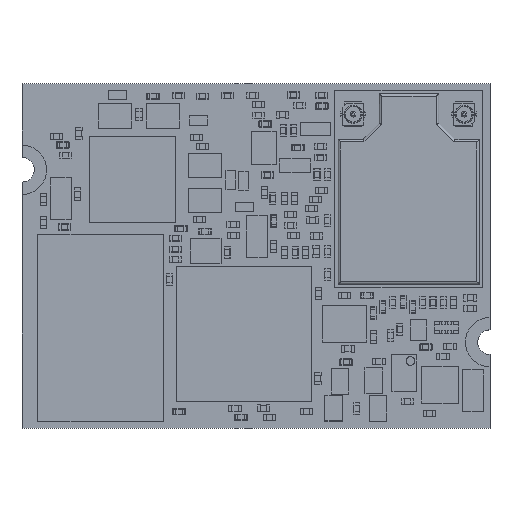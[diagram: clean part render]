
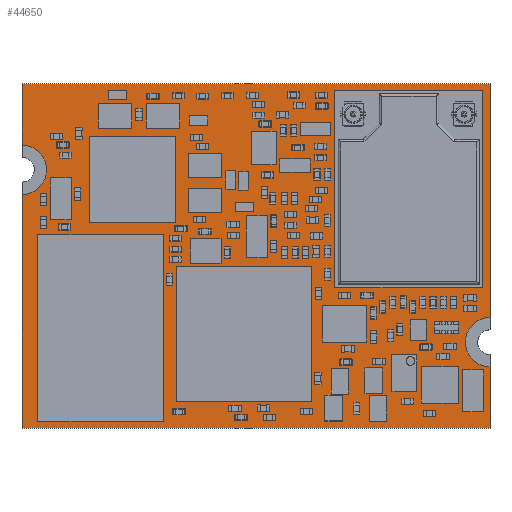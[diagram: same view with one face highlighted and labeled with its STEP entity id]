
A CAD part, top view. The second image highlights one B-rep face of the part: STEP entity #44650.
In plain terms, the highlighted planar face has unit normal (0, 0, 1).
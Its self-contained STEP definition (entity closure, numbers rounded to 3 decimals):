
#1537 = ORIENTED_EDGE ( 'NONE', *, *, #66801, .T. ) ;
#2573 = FACE_OUTER_BOUND ( 'NONE', #35099, .T. ) ;
#2852 = DIRECTION ( 'NONE',  ( 1., 0., 0. ) ) ;
#4042 = PLANE ( 'NONE',  #27562 ) ;
#4236 = EDGE_CURVE ( 'NONE', #74479, #95088, #72237, .T. ) ;
#4811 = ORIENTED_EDGE ( 'NONE', *, *, #30129, .T. ) ;
#5543 = VERTEX_POINT ( 'NONE', #24431 ) ;
#5907 = VERTEX_POINT ( 'NONE', #30340 ) ;
#10589 = VERTEX_POINT ( 'NONE', #11386 ) ;
#11386 = CARTESIAN_POINT ( 'NONE',  ( 0., 28., 1.626 ) ) ;
#11909 = VERTEX_POINT ( 'NONE', #91052 ) ;
#15115 = CARTESIAN_POINT ( 'NONE',  ( 0., 19., 1.626 ) ) ;
#16003 = EDGE_CURVE ( 'NONE', #37829, #10589, #94210, .T. ) ;
#17890 = DIRECTION ( 'NONE',  ( 1., 0., 0. ) ) ;
#18807 = CARTESIAN_POINT ( 'NONE',  ( 38., 0., 1.626 ) ) ;
#21261 = EDGE_CURVE ( 'NONE', #105791, #11909, #87560, .T. ) ;
#21970 = CARTESIAN_POINT ( 'NONE',  ( 0., 0., 1.626 ) ) ;
#23171 = DIRECTION ( 'NONE',  ( 0., -1., 0. ) ) ;
#24431 = CARTESIAN_POINT ( 'NONE',  ( 38., 5., 1.626 ) ) ;
#27562 = AXIS2_PLACEMENT_3D ( 'NONE', #21970, #49376, #2852 ) ;
#30129 = EDGE_CURVE ( 'NONE', #10589, #11909, #103913, .T. ) ;
#30340 = CARTESIAN_POINT ( 'NONE',  ( 38., 9., 1.626 ) ) ;
#32877 = AXIS2_PLACEMENT_3D ( 'NONE', #46447, #73804, #55174 ) ;
#34360 = ORIENTED_EDGE ( 'NONE', *, *, #4236, .T. ) ;
#35099 = EDGE_LOOP ( 'NONE', ( #50181, #78056, #34360, #56023, #92288, #1537, #94601, #4811 ) ) ;
#35135 = VECTOR ( 'NONE', #101913, 1000. ) ;
#36737 = CARTESIAN_POINT ( 'NONE',  ( 0., 28., 1.626 ) ) ;
#37829 = VERTEX_POINT ( 'NONE', #62903 ) ;
#39187 = CARTESIAN_POINT ( 'NONE',  ( 38., 28., 1.626 ) ) ;
#41010 = LINE ( 'NONE', #62358, #80881 ) ;
#41029 = CARTESIAN_POINT ( 'NONE',  ( 0., 28., 1.626 ) ) ;
#44650 = ADVANCED_FACE ( 'NONE', ( #2573 ), #4042, .T. ) ;
#46381 = AXIS2_PLACEMENT_3D ( 'NONE', #81083, #90582, #17890 ) ;
#46447 = CARTESIAN_POINT ( 'NONE',  ( 38., 7., 1.626 ) ) ;
#46777 = CARTESIAN_POINT ( 'NONE',  ( 38., 0., 1.626 ) ) ;
#49376 = DIRECTION ( 'NONE',  ( 0., 0., 1. ) ) ;
#50181 = ORIENTED_EDGE ( 'NONE', *, *, #21261, .F. ) ;
#55174 = DIRECTION ( 'NONE',  ( 1., 0., 0. ) ) ;
#56023 = ORIENTED_EDGE ( 'NONE', *, *, #105320, .T. ) ;
#56580 = VECTOR ( 'NONE', #93265, 1000. ) ;
#56650 = DIRECTION ( 'NONE',  ( 0., 1., 0. ) ) ;
#62358 = CARTESIAN_POINT ( 'NONE',  ( 38., 0., 1.626 ) ) ;
#62903 = CARTESIAN_POINT ( 'NONE',  ( 38., 28., 1.626 ) ) ;
#66801 = EDGE_CURVE ( 'NONE', #5907, #37829, #75329, .T. ) ;
#71516 = DIRECTION ( 'NONE',  ( 0., 1., 0. ) ) ;
#72237 = LINE ( 'NONE', #102438, #56580 ) ;
#73804 = DIRECTION ( 'NONE',  ( 0., 0., 1. ) ) ;
#73966 = VECTOR ( 'NONE', #23171, 1000. ) ;
#74479 = VERTEX_POINT ( 'NONE', #116858 ) ;
#75329 = LINE ( 'NONE', #46777, #95457 ) ;
#76333 = LINE ( 'NONE', #36737, #35135 ) ;
#78056 = ORIENTED_EDGE ( 'NONE', *, *, #97706, .T. ) ;
#80881 = VECTOR ( 'NONE', #71516, 1000. ) ;
#81083 = CARTESIAN_POINT ( 'NONE',  ( 0., 21., 1.626 ) ) ;
#87560 = CIRCLE ( 'NONE', #46381, 2. ) ;
#90582 = DIRECTION ( 'NONE',  ( 0., 0., 1. ) ) ;
#91052 = CARTESIAN_POINT ( 'NONE',  ( 0., 23., 1.626 ) ) ;
#92288 = ORIENTED_EDGE ( 'NONE', *, *, #92780, .F. ) ;
#92780 = EDGE_CURVE ( 'NONE', #5907, #5543, #98567, .T. ) ;
#93265 = DIRECTION ( 'NONE',  ( 1., 0., 0. ) ) ;
#94210 = LINE ( 'NONE', #39187, #112685 ) ;
#94601 = ORIENTED_EDGE ( 'NONE', *, *, #16003, .T. ) ;
#95088 = VERTEX_POINT ( 'NONE', #18807 ) ;
#95457 = VECTOR ( 'NONE', #56650, 1000. ) ;
#97706 = EDGE_CURVE ( 'NONE', #105791, #74479, #76333, .T. ) ;
#98567 = CIRCLE ( 'NONE', #32877, 2. ) ;
#101913 = DIRECTION ( 'NONE',  ( 0., -1., 0. ) ) ;
#102438 = CARTESIAN_POINT ( 'NONE',  ( 0., 0., 1.626 ) ) ;
#102826 = DIRECTION ( 'NONE',  ( -1., 0., 0. ) ) ;
#103913 = LINE ( 'NONE', #41029, #73966 ) ;
#105320 = EDGE_CURVE ( 'NONE', #95088, #5543, #41010, .T. ) ;
#105791 = VERTEX_POINT ( 'NONE', #15115 ) ;
#112685 = VECTOR ( 'NONE', #102826, 1000. ) ;
#116858 = CARTESIAN_POINT ( 'NONE',  ( 0., 0., 1.626 ) ) ;
